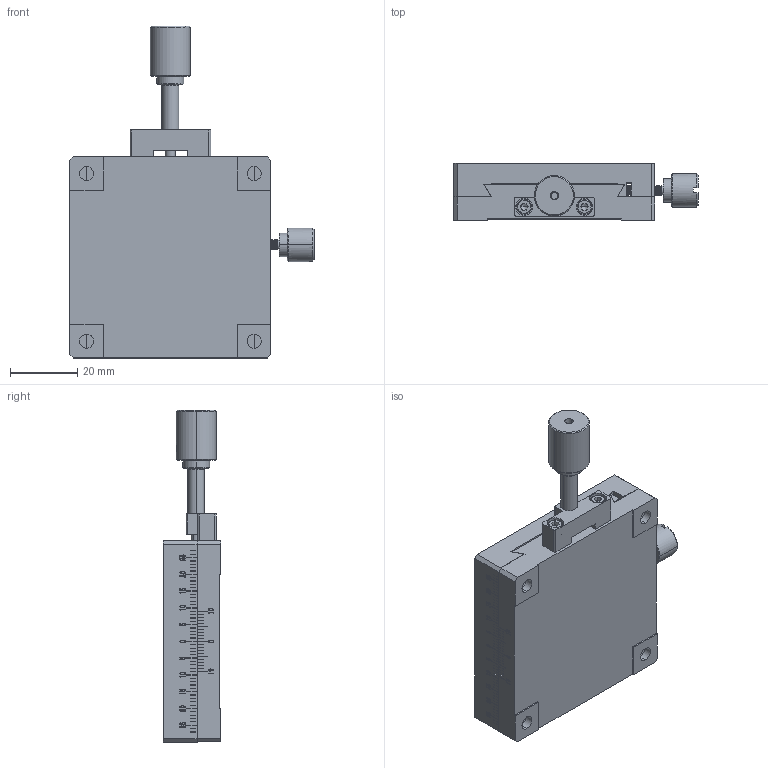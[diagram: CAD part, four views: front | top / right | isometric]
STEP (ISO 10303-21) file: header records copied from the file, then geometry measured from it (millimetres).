
FILE_DESCRIPTION (( 'STEP AP203' ), '1' );
FILE_NAME ('BFES60.STEP', '2024-02-23T08:14:59', ( 'China' ), ( 'Microsoft' ), 'SwSTEP 2.0', 'SolidWorks 2024', '' );
FILE_SCHEMA (( 'CONFIG_CONTROL_DESIGN' ));
Length unit declared in the file: millimetre
Products named in the file (1): BFES60
Bounding box: 72.9 x 17 x 99 mm (x, y, z)
Volume: 58978.3 mm3; surface area: 27566.4 mm2
Topology: 10 solids, 10 shells, 1235 faces, 3400 edges, 2223 vertices
Faces by surface type: plane 712, bspline 237, cylinder 223, cone 55, torus 8
Entity records: 53692 total; most frequent: CARTESIAN_POINT 25405, ORIENTED_EDGE 6756, DIRECTION 4350, EDGE_CURVE 3378, VERTEX_POINT 2223, VECTOR 1752, LINE 1752, EDGE_LOOP 1337
